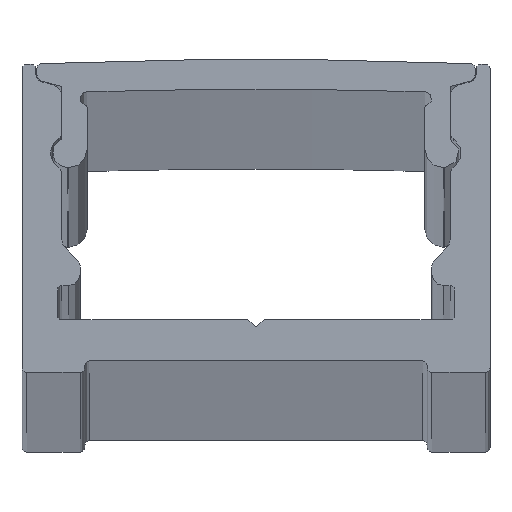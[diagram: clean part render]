
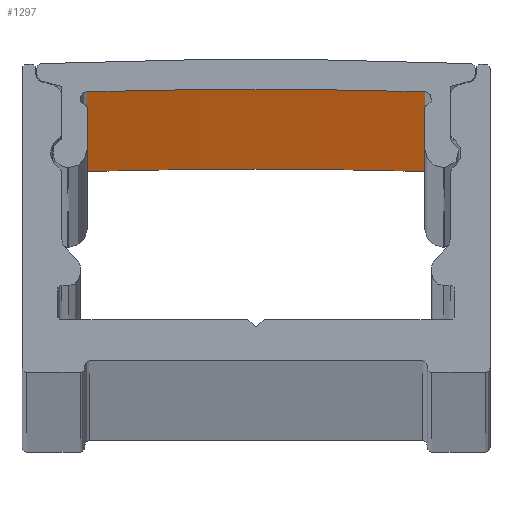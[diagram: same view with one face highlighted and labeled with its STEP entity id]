
A CAD part, top view. The second image highlights one B-rep face of the part: STEP entity #1297.
In plain terms, the highlighted cylindrical face has radius 248.7 mm (diameter 497.4 mm), a partial arc.
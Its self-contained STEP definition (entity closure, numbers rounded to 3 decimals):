
#125 = FACE_OUTER_BOUND ( 'NONE', #1944, .T. ) ;
#199 = DIRECTION ( 'NONE',  ( 0., 0., -1. ) ) ;
#500 = VERTEX_POINT ( 'NONE', #2375 ) ;
#536 = VERTEX_POINT ( 'NONE', #1641 ) ;
#626 = AXIS2_PLACEMENT_3D ( 'NONE', #862, #2982, #628 ) ;
#628 = DIRECTION ( 'NONE',  ( -1., 0., 0. ) ) ;
#668 = ORIENTED_EDGE ( 'NONE', *, *, #726, .T. ) ;
#714 = CARTESIAN_POINT ( 'NONE',  ( 7.409, -1.41, 1000. ) ) ;
#726 = EDGE_CURVE ( 'NONE', #925, #536, #1182, .T. ) ;
#862 = CARTESIAN_POINT ( 'NONE',  ( 0., -250., 1000. ) ) ;
#863 = EDGE_CURVE ( 'NONE', #3113, #536, #3065, .T. ) ;
#925 = VERTEX_POINT ( 'NONE', #1598 ) ;
#1168 = CARTESIAN_POINT ( 'NONE',  ( -7.409, -1.41, 1000. ) ) ;
#1182 = CIRCLE ( 'NONE', #2013, 248.7 ) ;
#1203 = CARTESIAN_POINT ( 'NONE',  ( 7.409, -1.41, 1000. ) ) ;
#1297 = ADVANCED_FACE ( 'NONE', ( #125 ), #1428, .F. ) ;
#1428 = CYLINDRICAL_SURFACE ( 'NONE', #626, 248.7 ) ;
#1493 = DIRECTION ( 'NONE',  ( 0., 0., -1. ) ) ;
#1528 = CARTESIAN_POINT ( 'NONE',  ( 0., -250., 1000. ) ) ;
#1598 = CARTESIAN_POINT ( 'NONE',  ( -7.409, -1.41, -1000. ) ) ;
#1608 = DIRECTION ( 'NONE',  ( 1., 0., 0. ) ) ;
#1633 = CIRCLE ( 'NONE', #2123, 248.7 ) ;
#1641 = CARTESIAN_POINT ( 'NONE',  ( 7.409, -1.41, -1000. ) ) ;
#1781 = ORIENTED_EDGE ( 'NONE', *, *, #1986, .F. ) ;
#1835 = DIRECTION ( 'NONE',  ( 0., 0., -1. ) ) ;
#1944 = EDGE_LOOP ( 'NONE', ( #668, #2361, #1781, #2953 ) ) ;
#1986 = EDGE_CURVE ( 'NONE', #500, #3113, #1633, .T. ) ;
#2013 = AXIS2_PLACEMENT_3D ( 'NONE', #3002, #2710, #2458 ) ;
#2123 = AXIS2_PLACEMENT_3D ( 'NONE', #1528, #1835, #1608 ) ;
#2361 = ORIENTED_EDGE ( 'NONE', *, *, #863, .F. ) ;
#2375 = CARTESIAN_POINT ( 'NONE',  ( -7.409, -1.41, 1000. ) ) ;
#2458 = DIRECTION ( 'NONE',  ( 1., 0., 0. ) ) ;
#2602 = VECTOR ( 'NONE', #199, 1000. ) ;
#2710 = DIRECTION ( 'NONE',  ( 0., 0., -1. ) ) ;
#2786 = LINE ( 'NONE', #1168, #2602 ) ;
#2953 = ORIENTED_EDGE ( 'NONE', *, *, #3300, .T. ) ;
#2982 = DIRECTION ( 'NONE',  ( 0., 0., -1. ) ) ;
#3002 = CARTESIAN_POINT ( 'NONE',  ( 0., -250., -1000. ) ) ;
#3065 = LINE ( 'NONE', #714, #3203 ) ;
#3113 = VERTEX_POINT ( 'NONE', #1203 ) ;
#3203 = VECTOR ( 'NONE', #1493, 1000. ) ;
#3300 = EDGE_CURVE ( 'NONE', #500, #925, #2786, .T. ) ;
